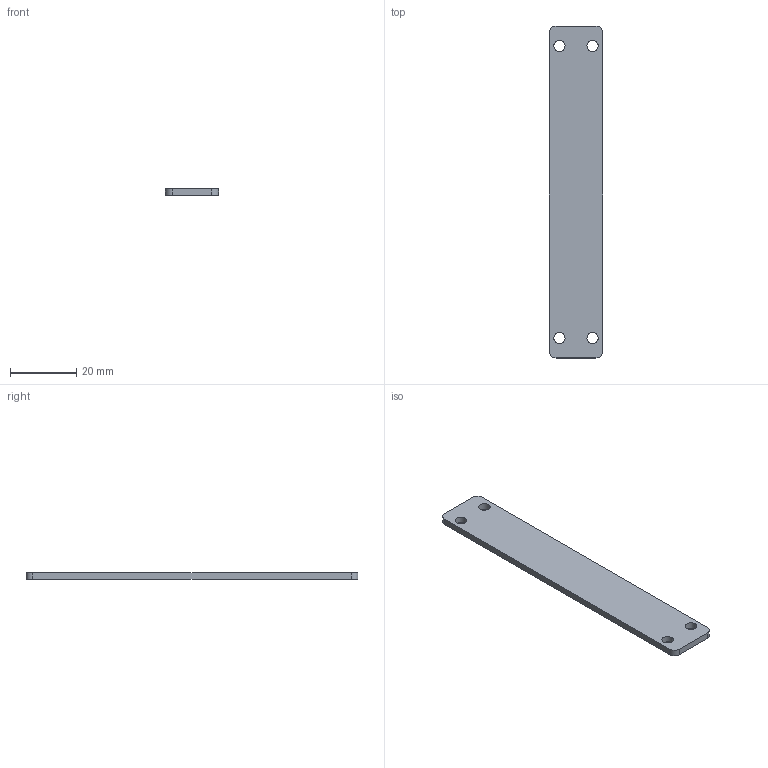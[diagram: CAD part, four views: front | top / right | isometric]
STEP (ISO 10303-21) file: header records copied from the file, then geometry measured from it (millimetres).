
FILE_DESCRIPTION(('Open CASCADE Model'),'2;1');
FILE_NAME('Open CASCADE Shape Model','2026-10-17T16:45:07',('Author'),( 'Open CASCADE'),'Open CASCADE STEP processor 8.0','build123d', 'Unknown');
FILE_SCHEMA(('AUTOMOTIVE_DESIGN { 1 0 10303 214 1 1 1 1 }'));
Length unit declared in the file: millimetre
Products named in the file (1): COMPOUND
Bounding box: 16 x 100 x 2 mm (x, y, z)
Volume: 3120.5 mm3; surface area: 3663.1 mm2
Topology: 1 solids, 1 shells, 14 faces, 36 edges, 24 vertices
Faces by surface type: cylinder 8, plane 6
Full cylindrical faces by diameter (mm): 3.4 x4
Entity records: 942 total; most frequent: CARTESIAN_POINT 171, DIRECTION 150, LINE 76, VECTOR 76, ORIENTED_EDGE 72, PCURVE 72, DEFINITIONAL_REPRESENTATION 72, EDGE_CURVE 36
